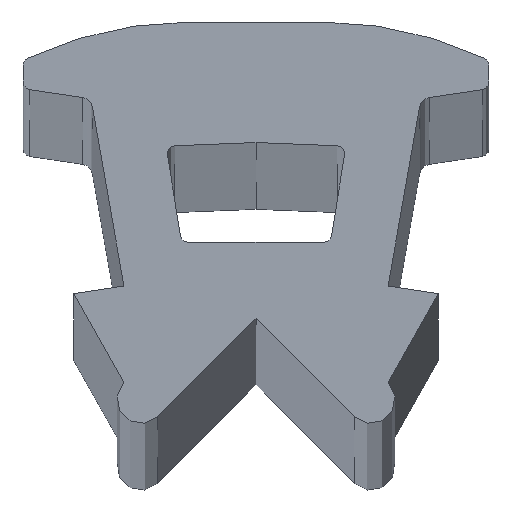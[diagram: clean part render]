
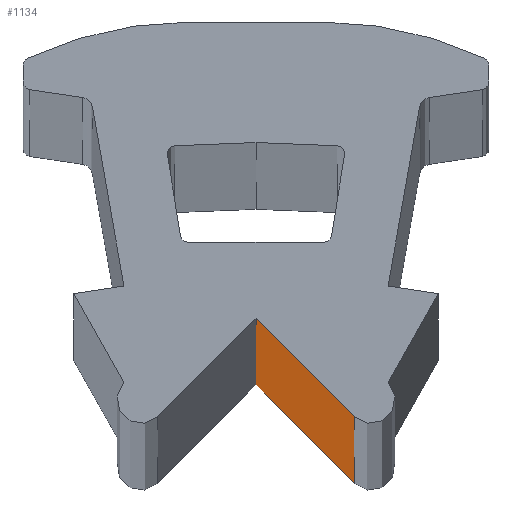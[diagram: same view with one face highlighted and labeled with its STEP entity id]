
A CAD part, top view. The second image highlights one B-rep face of the part: STEP entity #1134.
In plain terms, the highlighted planar face has unit normal (-0.707, -0.707, 0).
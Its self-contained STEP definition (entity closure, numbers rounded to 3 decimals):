
#3 = VERTEX_POINT ( 'NONE', #1102 ) ;
#46 = CARTESIAN_POINT ( 'NONE',  ( 2.57, -10.31, 500. ) ) ;
#65 = CARTESIAN_POINT ( 'NONE',  ( 0., -7.74, 500. ) ) ;
#100 = CARTESIAN_POINT ( 'NONE',  ( 0., -7.74, -500. ) ) ;
#139 = AXIS2_PLACEMENT_3D ( 'NONE', #100, #627, #351 ) ;
#159 = VECTOR ( 'NONE', #626, 1000. ) ;
#160 = CARTESIAN_POINT ( 'NONE',  ( 0., -7.74, -500. ) ) ;
#167 = LINE ( 'NONE', #522, #927 ) ;
#200 = EDGE_CURVE ( 'NONE', #620, #696, #267, .T. ) ;
#216 = CARTESIAN_POINT ( 'NONE',  ( 0., -7.74, -500. ) ) ;
#267 = LINE ( 'NONE', #617, #159 ) ;
#326 = ORIENTED_EDGE ( 'NONE', *, *, #1050, .T. ) ;
#351 = DIRECTION ( 'NONE',  ( 0.707, -0.707, 0. ) ) ;
#424 = ORIENTED_EDGE ( 'NONE', *, *, #200, .F. ) ;
#486 = DIRECTION ( 'NONE',  ( 0.707, -0.707, 0. ) ) ;
#507 = EDGE_LOOP ( 'NONE', ( #668, #424, #1088, #326 ) ) ;
#522 = CARTESIAN_POINT ( 'NONE',  ( 2.57, -10.31, -500. ) ) ;
#572 = LINE ( 'NONE', #661, #764 ) ;
#615 = VECTOR ( 'NONE', #486, 1000. ) ;
#617 = CARTESIAN_POINT ( 'NONE',  ( 0., -7.74, -500. ) ) ;
#620 = VERTEX_POINT ( 'NONE', #160 ) ;
#626 = DIRECTION ( 'NONE',  ( 0., 0., 1. ) ) ;
#627 = DIRECTION ( 'NONE',  ( -0.707, -0.707, 0. ) ) ;
#661 = CARTESIAN_POINT ( 'NONE',  ( 0., -7.74, 500. ) ) ;
#668 = ORIENTED_EDGE ( 'NONE', *, *, #837, .F. ) ;
#669 = EDGE_CURVE ( 'NONE', #620, #3, #1009, .T. ) ;
#696 = VERTEX_POINT ( 'NONE', #65 ) ;
#764 = VECTOR ( 'NONE', #1084, 1000. ) ;
#804 = FACE_OUTER_BOUND ( 'NONE', #507, .T. ) ;
#827 = VERTEX_POINT ( 'NONE', #46 ) ;
#837 = EDGE_CURVE ( 'NONE', #696, #827, #572, .T. ) ;
#927 = VECTOR ( 'NONE', #1038, 1000. ) ;
#1009 = LINE ( 'NONE', #216, #615 ) ;
#1038 = DIRECTION ( 'NONE',  ( 0., 0., 1. ) ) ;
#1050 = EDGE_CURVE ( 'NONE', #3, #827, #167, .T. ) ;
#1057 = PLANE ( 'NONE',  #139 ) ;
#1084 = DIRECTION ( 'NONE',  ( 0.707, -0.707, 0. ) ) ;
#1088 = ORIENTED_EDGE ( 'NONE', *, *, #669, .T. ) ;
#1102 = CARTESIAN_POINT ( 'NONE',  ( 2.57, -10.31, -500. ) ) ;
#1134 = ADVANCED_FACE ( 'NONE', ( #804 ), #1057, .T. ) ;
